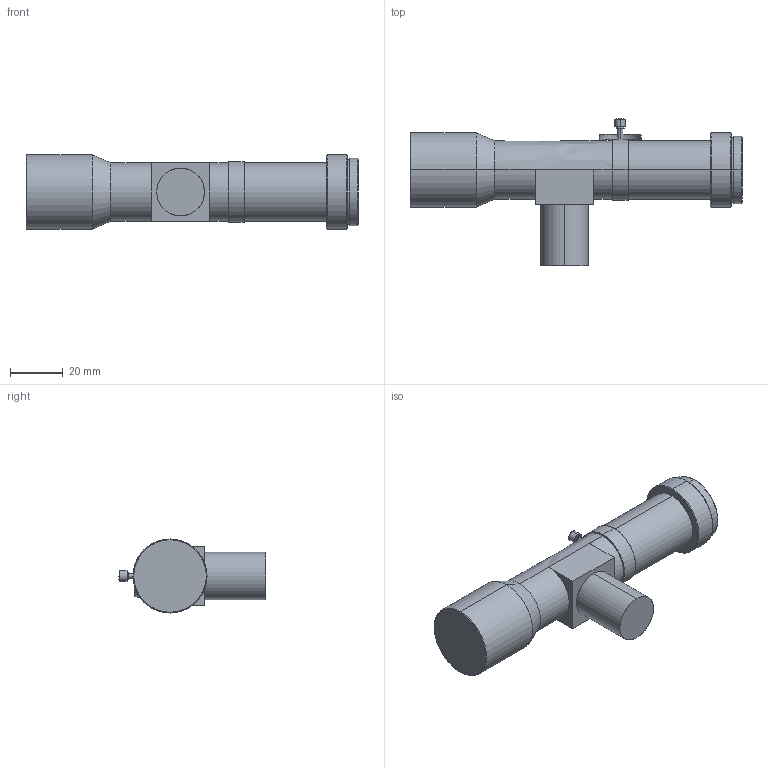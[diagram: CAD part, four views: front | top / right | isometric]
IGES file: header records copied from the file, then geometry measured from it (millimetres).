
Start section: SolidWorks IGES file using analytic representation for surfaces
Global section: file name: C:\Users\16255\Desktop\sw\WWHｺﾍWH\WWH\ﾎｴｻｭﾍ鷭C\WWH08-130CT-G\WWH08-130CT-G IGESﾍｼ.IGS,; native system: SolidWorks 2014; preprocessor: SolidWorks 2014; author: 16255; date: 191108.160634; units: millimetre
Bounding box: 125.4 x 55.6 x 28 mm (x, y, z)
Surface area: 12956.1 mm2 (no closed solid volume)
Topology: 0 solids, 0 shells, 51 faces, 806 edges, 805 vertices
Faces by surface type: revolution 35, bspline 16
